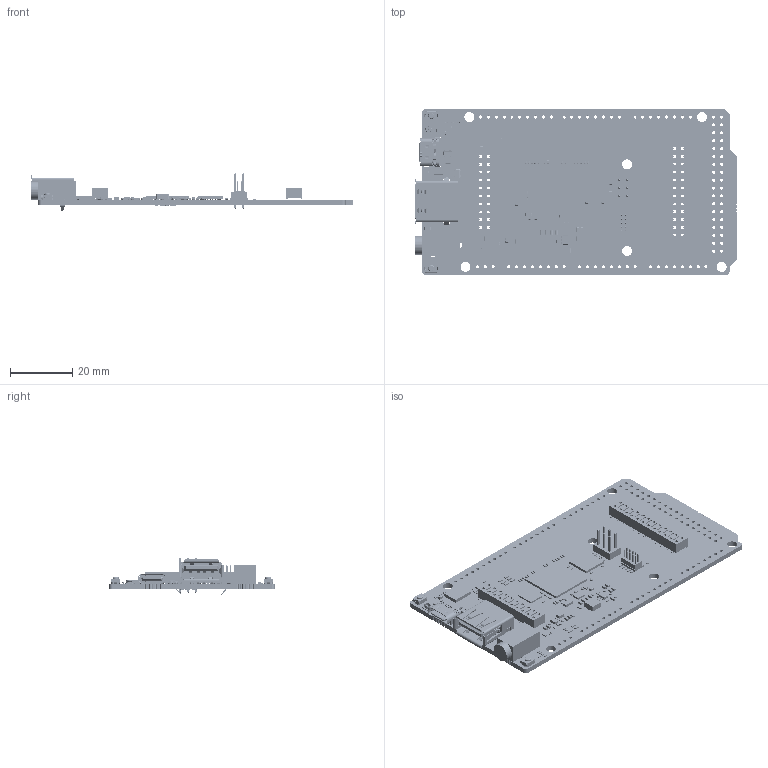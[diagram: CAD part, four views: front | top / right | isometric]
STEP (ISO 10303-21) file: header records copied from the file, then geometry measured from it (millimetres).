
FILE_DESCRIPTION(('Open CASCADE Model'),'2;1');
FILE_NAME('Open CASCADE Shape Model','2023-03-30T17:25:44',('Author'),( 'Open CASCADE'),'Open CASCADE STEP processor 7.5','Open CASCADE 7.5' ,'Unknown');
FILE_SCHEMA(('AUTOMOTIVE_DESIGN { 1 0 10303 214 1 1 1 1 }'));
Length unit declared in the file: millimetre
Products named in the file (222): PCB; Board; Open CASCADE STEP translator 7.5 1.1.1; R40; RES-0402; Y3; 6246480768; Extruded; U9; 7060203088; Open CASCADE STEP translator 6.8 32.1; Body; Open CASCADE STEP translator 6.8 32.2.1; ball; R37; R34; R32; U8; 7060202368; Open CASCADE STEP translator 6.8 13.1; Open CASCADE STEP translator 6.8 13.2.1; Thermal_Shape; Pin_Shape; Open CASCADE STEP translator 6.8 13.4.1; Open CASCADE STEP translator 6.8 13.4.2; U7; 7060201808; Open CASCADE STEP translator 6.8 18.1.1; Leader; R31; J15; 10511073552; Cylinder; 10511073392; R2; R17; C37; CAP-0402; J12; CX90B-16P_CL0480-0755-0-00_3DDrawing_STEP_CX90B-16P_3D_48007525000_3D_
STP ...
Assembly tree (365 placements, depth 5):
  PCB
    Board
      Open CASCADE STEP translator 7.5 1.1.1
    R40
      RES-0402
    Y3
      6246480768
        Extruded
    U9
      7060203088
        Open CASCADE STEP translator 6.8 32.1
        Body
          Open CASCADE STEP translator 6.8 32.2.1
        ball  x9
    R37
      RES-0402
    R34
      RES-0402
    R32
      RES-0402
    U8
      7060202368
        Open CASCADE STEP translator 6.8 13.1
        Body
          Open CASCADE STEP translator 6.8 13.2.1
        Thermal_Shape
        Pin_Shape  x8
          Open CASCADE STEP translator 6.8 13.4.1
          Open CASCADE STEP translator 6.8 13.4.2
    U7
      7060201808
        Body
          Open CASCADE STEP translator 6.8 18.1.1
        Leader  x6
    R31
      RES-0402
    J15
      10511073552
        Cylinder
      10511073392
        Extruded
    R2
      RES-0402
    R17
      RES-0402
    C37
      CAP-0402
    J12
      CX90B-16P_CL0480-0755-0-00_3DDrawing_STEP_CX90B-16P_3D_48007525000_3D_
STP
        CX90B-16P_3D
    C83
      CAP-0402
    C82
      CAP-0402
    C81
      CAP-0402
    C80
      CAP-0402
    C79
      CAP-0402
Bounding box: 104 x 53.34 x 12.08 mm (x, y, z)
Volume: 11769.6 mm3; surface area: 19136.8 mm2
Topology: 191 solids, 204 shells, 11784 faces, 29369 edges, 17331 vertices
Faces by surface type: plane 6324, cylinder 3619, sphere 1028, bspline 733, cone 52, torus 18, revolution 10
Full cylindrical faces by diameter (mm): 0.07 x1, 0.151 x1, 0.2 x1, 0.45 x2, 0.6 x2, 0.762 x1, 0.8 x2, 0.95 x6, 1 x89, 1.1 x44, 1.2 x2, 1.8 x4, 2 x2, 2.05 x2, 2.3 x2, 3.2 x6, 6 x1
Entity records: 195880 total; most frequent: CARTESIAN_POINT 36265, ORIENTED_EDGE 28341, DIRECTION 27919, EDGE_CURVE 14174, LINE 10645, VECTOR 10645, VERTEX_POINT 9353, AXIS2_PLACEMENT_3D 8632
